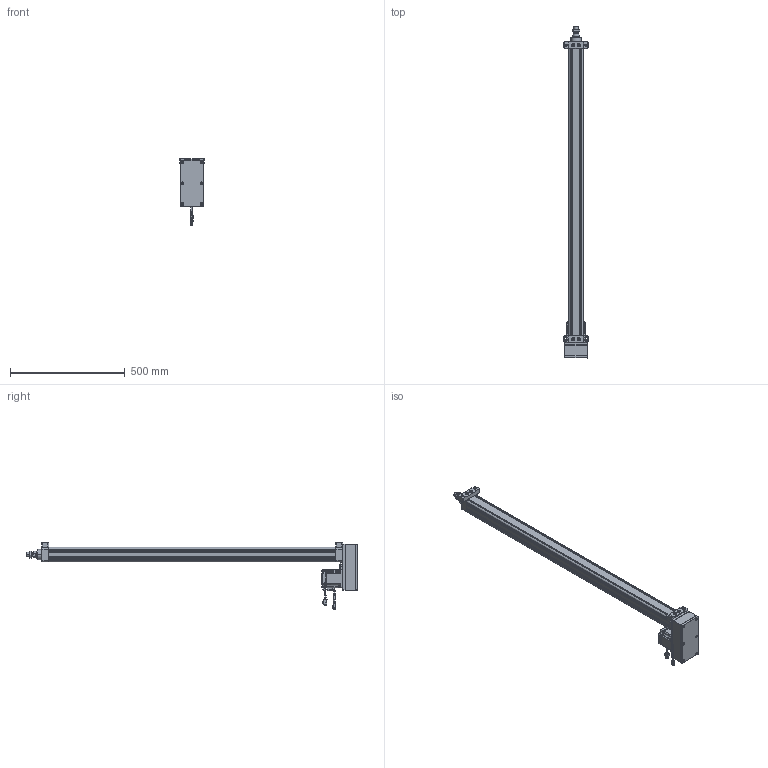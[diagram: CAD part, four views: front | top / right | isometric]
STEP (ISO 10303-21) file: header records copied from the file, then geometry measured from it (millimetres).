
FILE_DESCRIPTION((''),'2;1');
FILE_NAME('HE50-D-100-X1_ASM','2020-05-08T',('ASUS20200'),(''),'CREO PARAMETRIC BY PTC INC, 2014190','CREO PARAMETRIC BY PTC INC, 2014190','');
FILE_SCHEMA(('CONFIG_CONTROL_DESIGN'));
Products named in the file (32): HE50-D-P-001-X1; HE50-D-P-002-X1; HE50-D-P-003-X1; 6301ZZ; LGLM-M8-22; SLM-01; YZ-M6X1; HE50-P-010-X1-400W; _MHMF082L1A2; _CABLE_MOTOR_BOTTOM_05; _CABLE_MOTOR_TOP_05; _MOTOR_CONNECTOR_2; _CABLE_BRAKE_BOTTOM_05; _CABLE_BRAKE_TOP_05; _MHMF_CONNECTOR_9_PIN_A6; MHMF082L1A2M2_1_ASM; TD-6; M6X25; LM-M6X1; JX6X6X20; M6X25-DS; LM-M6-15; HE50-P-012-X1; HE50-P-013-X1; M6X60; HE50-P-015-X1; HE50-P-016-X1; M8X25; HE50-D-P-005-X1; HE50-D-P-004-X1; HE50-D-P-008-X1; HE50-D-100-X1_ASM
Assembly tree (56 placements, depth 3):
  HE50-D-100-X1_ASM
    HE50-D-P-001-X1
    HE50-D-P-002-X1
    HE50-D-P-003-X1
    6301ZZ
    LGLM-M8-22  x8
    SLM-01
    YZ-M6X1
    HE50-P-010-X1-400W
    MHMF082L1A2M2_1_ASM
      _MHMF082L1A2
      _CABLE_MOTOR_BOTTOM_05
      _CABLE_MOTOR_TOP_05
      _MOTOR_CONNECTOR_2
      _CABLE_BRAKE_BOTTOM_05
      _CABLE_BRAKE_TOP_05
      _MHMF_CONNECTOR_9_PIN_A6
    TD-6  x4
    M6X25  x4
    LM-M6X1  x5
    JX6X6X20
    M6X25-DS
    LM-M6-15
    HE50-P-012-X1
    HE50-P-013-X1
    M6X60  x6
    HE50-P-015-X1
    HE50-P-016-X1
    M8X25  x4
    HE50-D-P-005-X1
    HE50-D-P-004-X1
    HE50-D-P-008-X1
Bounding box: 105 x 1448.5 x 290.65 mm (x, y, z)
Volume: 3678216.9 mm3; surface area: 1097729.4 mm2
Topology: 55 solids, 89 shells, 3018 faces, 7249 edges, 4500 vertices
Faces by surface type: plane 1317, cylinder 815, cone 689, torus 154, sphere 42, bspline 1
Entity records: 72234 total; most frequent: CARTESIAN_POINT 13467, DIRECTION 12895, ORIENTED_EDGE 11500, EDGE_CURVE 5811, AXIS2_PLACEMENT_3D 4793, VERTEX_POINT 3641, VECTOR 3309, LINE 3309
